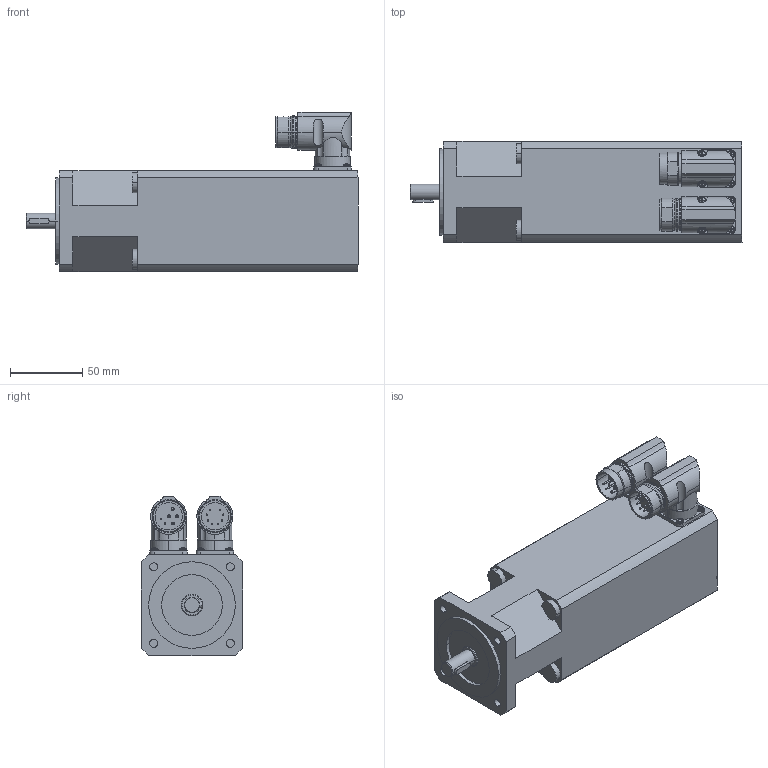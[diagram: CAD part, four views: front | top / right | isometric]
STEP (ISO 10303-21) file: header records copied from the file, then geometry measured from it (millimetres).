
FILE_DESCRIPTION((''),'2;1');
FILE_NAME('ACG0190.stp','2005-05-19T13:46:55',(''),(''),'Mechanical Desktop 2005','Mechanical Desktop 2005',', , ');
FILE_SCHEMA(('AUTOMOTIVE_DESIGN { 1 2 10303 214 0 1 1 1 }'));
Length unit declared in the file: millimetre
Products named in the file (2): ACG0190; CARCASA
Assembly tree (1 placements, depth 2):
  ACG0190
    CARCASA
Bounding box: 230 x 70 x 110.22 mm (x, y, z)
Volume: 1018567.3 mm3; surface area: 81199.5 mm2
Topology: 1 solids, 1 shells, 620 faces, 1507 edges, 894 vertices
Faces by surface type: plane 290, cylinder 192, cone 78, sphere 32, torus 24, bspline 4
Entity records: 19214 total; most frequent: CARTESIAN_POINT 4895, DIRECTION 3119, ORIENTED_EDGE 2926, EDGE_CURVE 1463, AXIS2_PLACEMENT_3D 1242, VERTEX_POINT 894, EDGE_LOOP 677, VECTOR 635
